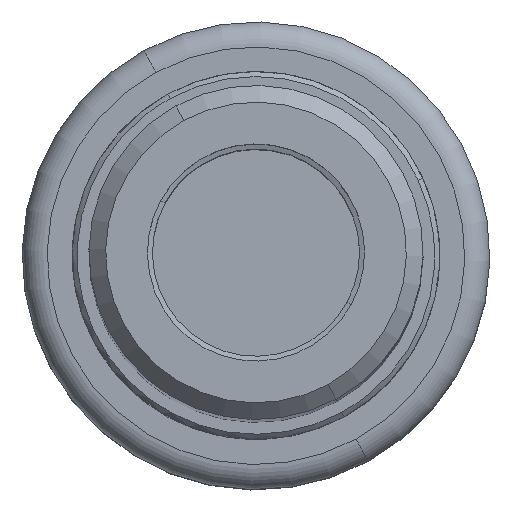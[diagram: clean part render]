
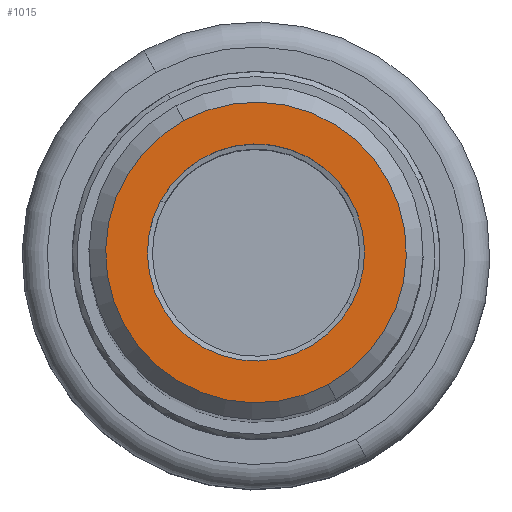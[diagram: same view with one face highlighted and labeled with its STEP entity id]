
A CAD part, top view. The second image highlights one B-rep face of the part: STEP entity #1015.
In plain terms, the highlighted planar face has unit normal (0, 0, 1).
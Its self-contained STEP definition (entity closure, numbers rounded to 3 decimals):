
#959=AXIS2_PLACEMENT_3D('Circle Axis2P3D',#957,#958,$) ;
#978=AXIS2_PLACEMENT_3D('Circle Axis2P3D',#976,#977,$) ;
#991=AXIS2_PLACEMENT_3D('Plane Axis2P3D',#988,#989,#990) ;
#999=AXIS2_PLACEMENT_3D('Circle Axis2P3D',#997,#998,$) ;
#1008=AXIS2_PLACEMENT_3D('Circle Axis2P3D',#1006,#1007,$) ;
#954=CARTESIAN_POINT('Vertex',(-4.315,7.898,0.)) ;
#957=CARTESIAN_POINT('Axis2P3D Location',(0.,0.,0.)) ;
#961=CARTESIAN_POINT('Vertex',(4.315,-7.898,0.)) ;
#976=CARTESIAN_POINT('Axis2P3D Location',(0.,0.,0.)) ;
#988=CARTESIAN_POINT('Axis2P3D Location',(0.,0.,0.)) ;
#997=CARTESIAN_POINT('Axis2P3D Location',(0.,0.,0.)) ;
#1001=CARTESIAN_POINT('Vertex',(5.704,-3.116,0.)) ;
#1003=CARTESIAN_POINT('Vertex',(-5.704,3.116,0.)) ;
#1006=CARTESIAN_POINT('Axis2P3D Location',(0.,0.,0.)) ;
#958=DIRECTION('Axis2P3D Direction',(0.,0.,-1.)) ;
#977=DIRECTION('Axis2P3D Direction',(0.,0.,-1.)) ;
#989=DIRECTION('Axis2P3D Direction',(0.,0.,-1.)) ;
#990=DIRECTION('Axis2P3D XDirection',(1.,0.,0.)) ;
#998=DIRECTION('Axis2P3D Direction',(0.,0.,-1.)) ;
#1007=DIRECTION('Axis2P3D Direction',(0.,0.,-1.)) ;
#994=ORIENTED_EDGE('',*,*,#963,.T.) ;
#995=ORIENTED_EDGE('',*,*,#980,.T.) ;
#1012=ORIENTED_EDGE('',*,*,#1005,.T.) ;
#1013=ORIENTED_EDGE('',*,*,#1010,.T.) ;
#1014=FACE_BOUND('',#1011,.T.) ;
#1015=ADVANCED_FACE('NOCUT',(#996,#1014),#992,.F.) ;
#960=CIRCLE('generated circle',#959,9.) ;
#979=CIRCLE('generated circle',#978,9.) ;
#1000=CIRCLE('generated circle',#999,6.5) ;
#1009=CIRCLE('generated circle',#1008,6.5) ;
#963=EDGE_CURVE('',#962,#955,#960,.F.) ;
#980=EDGE_CURVE('',#955,#962,#979,.F.) ;
#1005=EDGE_CURVE('',#1002,#1004,#1000,.T.) ;
#1010=EDGE_CURVE('',#1004,#1002,#1009,.T.) ;
#993=EDGE_LOOP('',(#994,#995)) ;
#1011=EDGE_LOOP('',(#1012,#1013)) ;
#996=FACE_OUTER_BOUND('',#993,.T.) ;
#992=PLANE('',#991) ;
#955=VERTEX_POINT('',#954) ;
#962=VERTEX_POINT('',#961) ;
#1002=VERTEX_POINT('',#1001) ;
#1004=VERTEX_POINT('',#1003) ;
